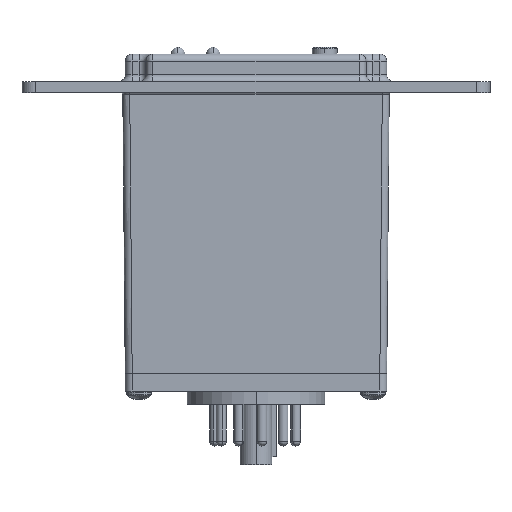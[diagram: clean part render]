
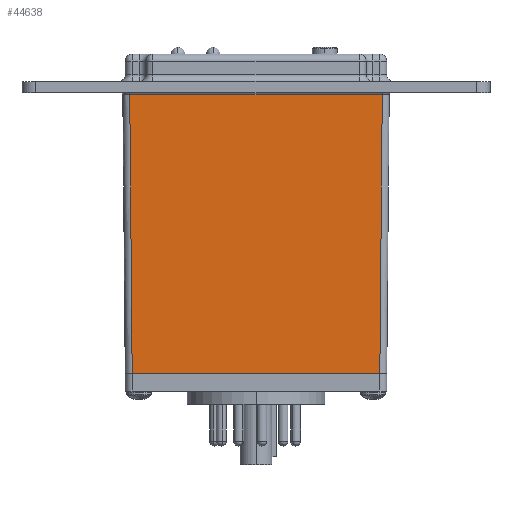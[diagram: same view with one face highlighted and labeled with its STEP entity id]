
A CAD part, left-side view. The second image highlights one B-rep face of the part: STEP entity #44638.
In plain terms, the highlighted planar face has unit normal (-1, 0, -0.009).
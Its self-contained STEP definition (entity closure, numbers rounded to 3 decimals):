
#40 = LINE ( 'NONE', #22141, #40682 ) ;
#2557 = ORIENTED_EDGE ( 'NONE', *, *, #22417, .T. ) ;
#3236 = VERTEX_POINT ( 'NONE', #46122 ) ;
#4101 = DIRECTION ( 'NONE',  ( -0.009, -0.009, 1. ) ) ;
#6013 = CARTESIAN_POINT ( 'NONE',  ( -22.225, -28.562, 0. ) ) ;
#7430 = EDGE_LOOP ( 'NONE', ( #39808, #9413, #2557, #24627 ) ) ;
#7602 = LINE ( 'NONE', #21889, #24964 ) ;
#9382 = VERTEX_POINT ( 'NONE', #6013 ) ;
#9413 = ORIENTED_EDGE ( 'NONE', *, *, #20644, .T. ) ;
#14800 = CARTESIAN_POINT ( 'NONE',  ( -22.225, 30.162, 0. ) ) ;
#16145 = VERTEX_POINT ( 'NONE', #32976 ) ;
#17670 = EDGE_CURVE ( 'NONE', #9382, #19631, #40, .T. ) ;
#18038 = FACE_OUTER_BOUND ( 'NONE', #7430, .T. ) ;
#19631 = VERTEX_POINT ( 'NONE', #26244 ) ;
#20644 = EDGE_CURVE ( 'NONE', #19631, #16145, #28943, .T. ) ;
#20958 = VECTOR ( 'NONE', #40335, 1000. ) ;
#21889 = CARTESIAN_POINT ( 'NONE',  ( -22.225, 30.162, 0. ) ) ;
#22141 = CARTESIAN_POINT ( 'NONE',  ( -22.221, -28.558, -0.512 ) ) ;
#22417 = EDGE_CURVE ( 'NONE', #16145, #3236, #44312, .T. ) ;
#24627 = ORIENTED_EDGE ( 'NONE', *, *, #26398, .T. ) ;
#24964 = VECTOR ( 'NONE', #39804, 1000. ) ;
#25570 = DIRECTION ( 'NONE',  ( -1., 0., -0.009 ) ) ;
#26244 = CARTESIAN_POINT ( 'NONE',  ( -22.786, -29.123, 64.266 ) ) ;
#26398 = EDGE_CURVE ( 'NONE', #3236, #9382, #7602, .T. ) ;
#28943 = LINE ( 'NONE', #40008, #35893 ) ;
#29582 = PLANE ( 'NONE',  #43904 ) ;
#32976 = CARTESIAN_POINT ( 'NONE',  ( -22.786, 29.123, 64.266 ) ) ;
#33721 = CARTESIAN_POINT ( 'NONE',  ( -22.225, 28.562, 0.014 ) ) ;
#35893 = VECTOR ( 'NONE', #43317, 1000. ) ;
#39804 = DIRECTION ( 'NONE',  ( 0., -1., 0. ) ) ;
#39808 = ORIENTED_EDGE ( 'NONE', *, *, #17670, .T. ) ;
#40008 = CARTESIAN_POINT ( 'NONE',  ( -22.786, 29.128, 64.266 ) ) ;
#40335 = DIRECTION ( 'NONE',  ( 0.009, -0.009, -1. ) ) ;
#40682 = VECTOR ( 'NONE', #4101, 1000. ) ;
#43317 = DIRECTION ( 'NONE',  ( 0., 1., 0. ) ) ;
#43711 = DIRECTION ( 'NONE',  ( -0.009, 0., 1. ) ) ;
#43904 = AXIS2_PLACEMENT_3D ( 'NONE', #14800, #25570, #43711 ) ;
#44312 = LINE ( 'NONE', #33721, #20958 ) ;
#44638 = ADVANCED_FACE ( 'NONE', ( #18038 ), #29582, .T. ) ;
#46122 = CARTESIAN_POINT ( 'NONE',  ( -22.225, 28.562, 0. ) ) ;
